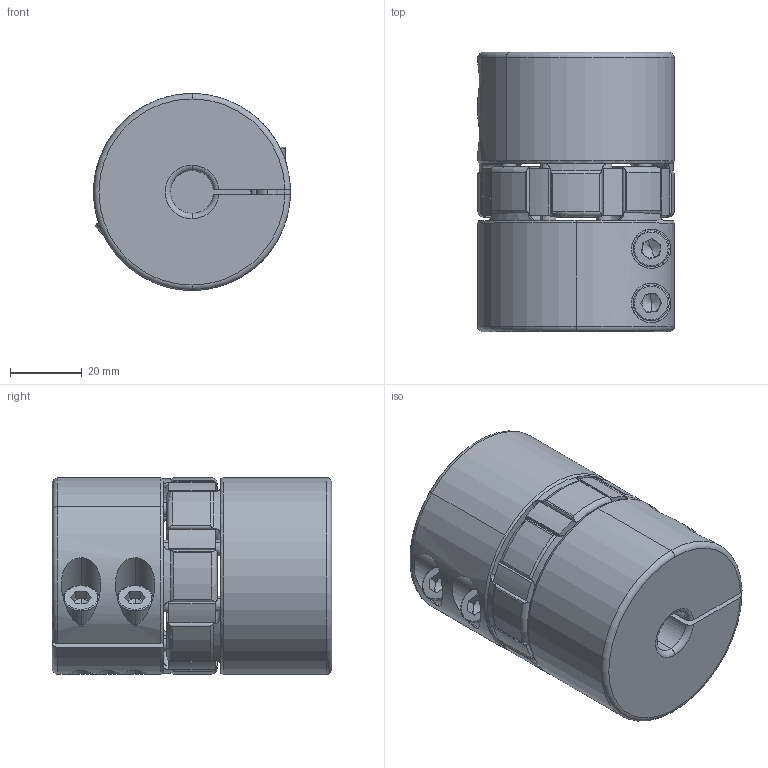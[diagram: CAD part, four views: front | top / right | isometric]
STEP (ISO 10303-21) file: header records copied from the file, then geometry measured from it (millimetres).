
FILE_DESCRIPTION (( 'STEP AP203' ), '1' );
FILE_NAME ('DXA-55X78-12-12.STEP', '2023-10-18T06:01:00', ( '' ), ( '' ), 'SwSTEP 2.0', 'SolidWorks 2020', '' );
FILE_SCHEMA (( 'CONFIG_CONTROL_DESIGN' ));
Length unit declared in the file: millimetre
Products named in the file (5): socket head cap screw_iso_ISO 4762 M6 x 20 - 20C; DXA-55X78-12-12; DXA55X78傷窒璃; 55繩豪菜; socket set screw dog point_iso_ISO M6 x 12 ÎÞÍ·
Assembly tree (9 placements, depth 2):
  DXA-55X78-12-12
    DXA55X78傷窒璃  x2
    55繩豪菜
    socket head cap screw_iso_ISO 4762 M6 x 20 - 20C  x4
    socket set screw dog point_iso_ISO M6 x 12 ÎÞÍ·  x2
Bounding box: 54.99 x 78 x 55 mm (x, y, z)
Volume: 167703.9 mm3; surface area: 42235.4 mm2
Topology: 9 solids, 9 shells, 509 faces, 1245 edges, 782 vertices
Faces by surface type: cylinder 231, plane 122, torus 118, cone 38
Entity records: 9486 total; most frequent: CARTESIAN_POINT 2224, DIRECTION 1519, ORIENTED_EDGE 1326, EDGE_CURVE 663, AXIS2_PLACEMENT_3D 656, VERTEX_POINT 425, CIRCLE 374, EDGE_LOOP 304
